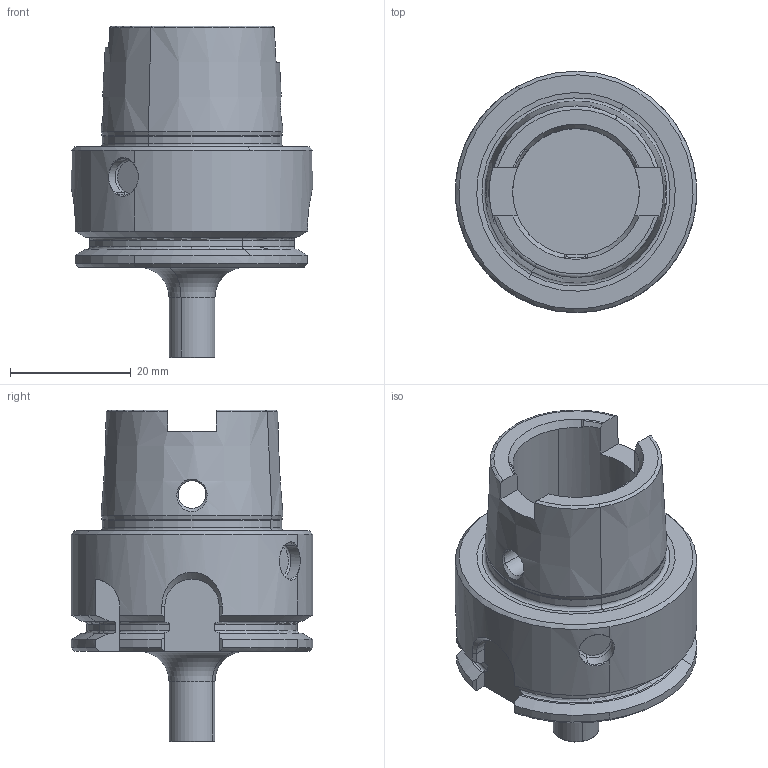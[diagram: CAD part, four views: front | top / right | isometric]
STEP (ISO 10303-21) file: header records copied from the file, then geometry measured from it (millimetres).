
FILE_DESCRIPTION(('CATIA V5 STEP','CAx-IF Rec.Pracs.--- Model Styling and Organization---1.2---2011-12-15'),'2;1');
FILE_NAME('N:\data\isr\design\special1\users\NATALY_B\Tal\NPA\3318856\MM S-A-H035-HSK A40-T05-L.stp','2017-03-12T14:54:14+00:00',('none'),('none'),'CATIA Version 5 Release 21 SP 5 (IN-10)','CATIA V5 STEP AP214','none');
FILE_SCHEMA(('AUTOMOTIVE_DESIGN { 1 0 10303 214 1 1 1 1 }'));
Length unit declared in the file: millimetre
Products named in the file (1): MM S-A-H035-HSK A40-T05
Bounding box: 40 x 40 x 55 mm (x, y, z)
Volume: 27863.3 mm3; surface area: 9191.6 mm2
Topology: 1 solids, 1 shells, 136 faces, 360 edges, 228 vertices
Faces by surface type: cone 41, plane 39, cylinder 27, torus 25, bspline 4
Entity records: 4457 total; most frequent: CARTESIAN_POINT 1555, ORIENTED_EDGE 720, DIRECTION 391, EDGE_CURVE 360, VERTEX_POINT 228, AXIS2_PLACEMENT_3D 209, CIRCLE 144, EDGE_LOOP 142
